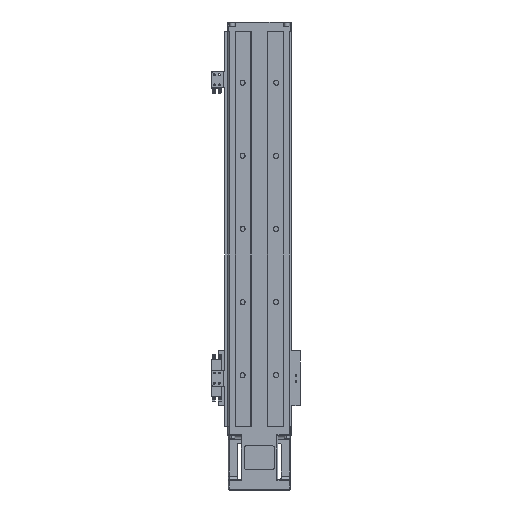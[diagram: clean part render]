
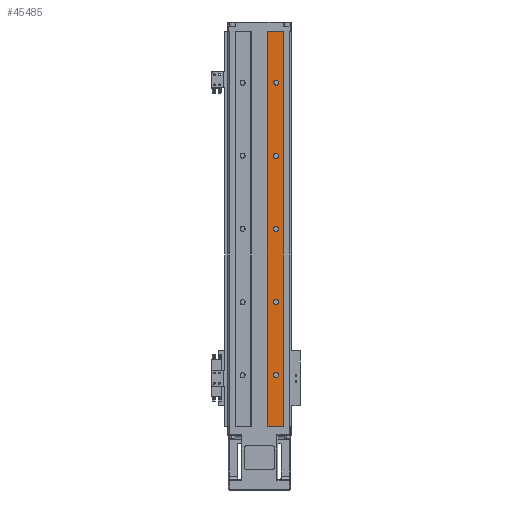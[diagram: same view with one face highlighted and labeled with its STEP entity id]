
A CAD part, front view. The second image highlights one B-rep face of the part: STEP entity #45485.
In plain terms, the highlighted planar face has unit normal (0, -1, 0).
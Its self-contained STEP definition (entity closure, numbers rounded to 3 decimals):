
#803 = DIRECTION ( 'NONE',  ( 0., 1., 0. ) ) ;
#943 = CARTESIAN_POINT ( 'NONE',  ( 23., 0., 66.5 ) ) ;
#1026 = CARTESIAN_POINT ( 'NONE',  ( 23., 0., 70. ) ) ;
#1121 = EDGE_CURVE ( 'NONE', #41941, #14808, #48359, .T. ) ;
#1353 = ORIENTED_EDGE ( 'NONE', *, *, #31557, .T. ) ;
#1497 = FACE_OUTER_BOUND ( 'NONE', #16632, .T. ) ;
#1652 = CARTESIAN_POINT ( 'NONE',  ( 23., 0., 470. ) ) ;
#1779 = VECTOR ( 'NONE', #28400, 1000. ) ;
#2083 = ORIENTED_EDGE ( 'NONE', *, *, #19591, .T. ) ;
#3080 = AXIS2_PLACEMENT_3D ( 'NONE', #14654, #22837, #5708 ) ;
#3585 = EDGE_CURVE ( 'NONE', #31066, #33149, #44888, .T. ) ;
#4056 = AXIS2_PLACEMENT_3D ( 'NONE', #7596, #16919, #16359 ) ;
#4114 = DIRECTION ( 'NONE',  ( 0., 0., -1. ) ) ;
#4436 = ORIENTED_EDGE ( 'NONE', *, *, #51329, .T. ) ;
#5266 = VERTEX_POINT ( 'NONE', #34138 ) ;
#5404 = CARTESIAN_POINT ( 'NONE',  ( 23., 0., 173.5 ) ) ;
#5708 = DIRECTION ( 'NONE',  ( 0., 0., -1. ) ) ;
#6390 = CARTESIAN_POINT ( 'NONE',  ( 11.5, 0., 540. ) ) ;
#7295 = DIRECTION ( 'NONE',  ( 0., 0., -1. ) ) ;
#7305 = LINE ( 'NONE', #21634, #31849 ) ;
#7374 = CARTESIAN_POINT ( 'NONE',  ( 23., 0., 366.5 ) ) ;
#7596 = CARTESIAN_POINT ( 'NONE',  ( 23., 0., 170. ) ) ;
#7943 = AXIS2_PLACEMENT_3D ( 'NONE', #1652, #32089, #36476 ) ;
#8792 = ORIENTED_EDGE ( 'NONE', *, *, #20139, .T. ) ;
#9235 = DIRECTION ( 'NONE',  ( 0., 1., 0. ) ) ;
#9510 = EDGE_CURVE ( 'NONE', #23948, #41164, #30399, .T. ) ;
#9890 = ORIENTED_EDGE ( 'NONE', *, *, #1121, .T. ) ;
#10294 = FACE_BOUND ( 'NONE', #28444, .T. ) ;
#10508 = CIRCLE ( 'NONE', #14370, 3.5 ) ;
#10571 = DIRECTION ( 'NONE',  ( 0., 0., 1. ) ) ;
#10816 = CARTESIAN_POINT ( 'NONE',  ( 32.5, 0., 540. ) ) ;
#11187 = ORIENTED_EDGE ( 'NONE', *, *, #23017, .T. ) ;
#11283 = LINE ( 'NONE', #15236, #1779 ) ;
#12793 = ORIENTED_EDGE ( 'NONE', *, *, #55559, .F. ) ;
#13091 = EDGE_LOOP ( 'NONE', ( #1353, #36796 ) ) ;
#13443 = CARTESIAN_POINT ( 'NONE',  ( 23., 0., 70. ) ) ;
#13782 = CARTESIAN_POINT ( 'NONE',  ( 23., 0., 466.5 ) ) ;
#13946 = DIRECTION ( 'NONE',  ( 0., 1., 0. ) ) ;
#14032 = ORIENTED_EDGE ( 'NONE', *, *, #33046, .T. ) ;
#14370 = AXIS2_PLACEMENT_3D ( 'NONE', #1026, #13946, #32029 ) ;
#14400 = FACE_BOUND ( 'NONE', #55404, .T. ) ;
#14654 = CARTESIAN_POINT ( 'NONE',  ( 23., 0., 470. ) ) ;
#14808 = VERTEX_POINT ( 'NONE', #48486 ) ;
#15236 = CARTESIAN_POINT ( 'NONE',  ( 43., 0., 540. ) ) ;
#16359 = DIRECTION ( 'NONE',  ( 0., 0., -1. ) ) ;
#16481 = CIRCLE ( 'NONE', #44664, 3.5 ) ;
#16632 = EDGE_LOOP ( 'NONE', ( #12793, #29199, #19997, #20557 ) ) ;
#16919 = DIRECTION ( 'NONE',  ( 0., 1., 0. ) ) ;
#17076 = AXIS2_PLACEMENT_3D ( 'NONE', #51834, #51477, #51282 ) ;
#17972 = DIRECTION ( 'NONE',  ( 0., 0., -1. ) ) ;
#18266 = AXIS2_PLACEMENT_3D ( 'NONE', #20322, #55047, #29067 ) ;
#18457 = EDGE_CURVE ( 'NONE', #33212, #29948, #53128, .T. ) ;
#18531 = EDGE_LOOP ( 'NONE', ( #8792, #11187 ) ) ;
#19591 = EDGE_CURVE ( 'NONE', #27552, #37307, #38232, .T. ) ;
#19997 = ORIENTED_EDGE ( 'NONE', *, *, #56350, .T. ) ;
#20139 = EDGE_CURVE ( 'NONE', #35707, #5266, #41553, .T. ) ;
#20302 = DIRECTION ( 'NONE',  ( 0., 1., 0. ) ) ;
#20311 = AXIS2_PLACEMENT_3D ( 'NONE', #13443, #9235, #17972 ) ;
#20322 = CARTESIAN_POINT ( 'NONE',  ( 43., 0., 540. ) ) ;
#20557 = ORIENTED_EDGE ( 'NONE', *, *, #18457, .F. ) ;
#21447 = DIRECTION ( 'NONE',  ( -1., 0., 0. ) ) ;
#21634 = CARTESIAN_POINT ( 'NONE',  ( 43., 0., 0. ) ) ;
#22837 = DIRECTION ( 'NONE',  ( 0., 1., 0. ) ) ;
#23017 = EDGE_CURVE ( 'NONE', #5266, #35707, #50286, .T. ) ;
#23948 = VERTEX_POINT ( 'NONE', #51025 ) ;
#24733 = CARTESIAN_POINT ( 'NONE',  ( 23., 0., 166.5 ) ) ;
#25289 = CARTESIAN_POINT ( 'NONE',  ( 23., 0., 170. ) ) ;
#25418 = LINE ( 'NONE', #46813, #45086 ) ;
#27367 = EDGE_CURVE ( 'NONE', #42742, #35468, #25418, .T. ) ;
#27552 = VERTEX_POINT ( 'NONE', #38481 ) ;
#28400 = DIRECTION ( 'NONE',  ( -1., 0., 0. ) ) ;
#28444 = EDGE_LOOP ( 'NONE', ( #14032, #2083 ) ) ;
#28668 = EDGE_CURVE ( 'NONE', #14808, #41941, #42180, .T. ) ;
#29067 = DIRECTION ( 'NONE',  ( 0., 0., -1. ) ) ;
#29199 = ORIENTED_EDGE ( 'NONE', *, *, #27367, .F. ) ;
#29363 = FACE_BOUND ( 'NONE', #13091, .T. ) ;
#29440 = ORIENTED_EDGE ( 'NONE', *, *, #28668, .T. ) ;
#29948 = VERTEX_POINT ( 'NONE', #50795 ) ;
#30166 = CARTESIAN_POINT ( 'NONE',  ( 23., 0., 370. ) ) ;
#30399 = CIRCLE ( 'NONE', #20311, 3.5 ) ;
#30403 = AXIS2_PLACEMENT_3D ( 'NONE', #25289, #38211, #47257 ) ;
#31066 = VERTEX_POINT ( 'NONE', #24733 ) ;
#31557 = EDGE_CURVE ( 'NONE', #41164, #23948, #10508, .T. ) ;
#31849 = VECTOR ( 'NONE', #21447, 1000. ) ;
#32029 = DIRECTION ( 'NONE',  ( 0., 0., -1. ) ) ;
#32089 = DIRECTION ( 'NONE',  ( 0., 1., 0. ) ) ;
#33046 = EDGE_CURVE ( 'NONE', #37307, #27552, #16481, .T. ) ;
#33149 = VERTEX_POINT ( 'NONE', #5404 ) ;
#33212 = VERTEX_POINT ( 'NONE', #40604 ) ;
#33450 = CARTESIAN_POINT ( 'NONE',  ( 23., 0., 270. ) ) ;
#34138 = CARTESIAN_POINT ( 'NONE',  ( 23., 0., 473.5 ) ) ;
#34826 = FACE_BOUND ( 'NONE', #45242, .T. ) ;
#35468 = VERTEX_POINT ( 'NONE', #41099 ) ;
#35707 = VERTEX_POINT ( 'NONE', #13782 ) ;
#36261 = CARTESIAN_POINT ( 'NONE',  ( 23., 0., 266.5 ) ) ;
#36476 = DIRECTION ( 'NONE',  ( 0., 0., -1. ) ) ;
#36796 = ORIENTED_EDGE ( 'NONE', *, *, #9510, .T. ) ;
#37307 = VERTEX_POINT ( 'NONE', #7374 ) ;
#38211 = DIRECTION ( 'NONE',  ( 0., 1., 0. ) ) ;
#38232 = CIRCLE ( 'NONE', #39707, 3.5 ) ;
#38481 = CARTESIAN_POINT ( 'NONE',  ( 23., 0., 373.5 ) ) ;
#39075 = ORIENTED_EDGE ( 'NONE', *, *, #3585, .T. ) ;
#39707 = AXIS2_PLACEMENT_3D ( 'NONE', #52807, #803, #44301 ) ;
#40604 = CARTESIAN_POINT ( 'NONE',  ( 11.5, 0., 0. ) ) ;
#41099 = CARTESIAN_POINT ( 'NONE',  ( 32.5, 0., 0. ) ) ;
#41164 = VERTEX_POINT ( 'NONE', #943 ) ;
#41553 = CIRCLE ( 'NONE', #7943, 3.5 ) ;
#41655 = VECTOR ( 'NONE', #10571, 1000. ) ;
#41781 = DIRECTION ( 'NONE',  ( 0., 0., -1. ) ) ;
#41941 = VERTEX_POINT ( 'NONE', #36261 ) ;
#42180 = CIRCLE ( 'NONE', #17076, 3.5 ) ;
#42742 = VERTEX_POINT ( 'NONE', #10816 ) ;
#43257 = DIRECTION ( 'NONE',  ( 0., 1., 0. ) ) ;
#44301 = DIRECTION ( 'NONE',  ( 0., 0., -1. ) ) ;
#44664 = AXIS2_PLACEMENT_3D ( 'NONE', #30166, #43257, #4114 ) ;
#44888 = CIRCLE ( 'NONE', #4056, 3.5 ) ;
#45086 = VECTOR ( 'NONE', #7295, 1000. ) ;
#45242 = EDGE_LOOP ( 'NONE', ( #9890, #29440 ) ) ;
#45485 = ADVANCED_FACE ( 'NONE', ( #1497, #46348, #10294, #34826, #14400, #29363 ), #54858, .T. ) ;
#46348 = FACE_BOUND ( 'NONE', #18531, .T. ) ;
#46813 = CARTESIAN_POINT ( 'NONE',  ( 32.5, 0., 540. ) ) ;
#47257 = DIRECTION ( 'NONE',  ( 0., 0., -1. ) ) ;
#47990 = AXIS2_PLACEMENT_3D ( 'NONE', #33450, #20302, #41781 ) ;
#48359 = CIRCLE ( 'NONE', #47990, 3.5 ) ;
#48486 = CARTESIAN_POINT ( 'NONE',  ( 23., 0., 273.5 ) ) ;
#50286 = CIRCLE ( 'NONE', #3080, 3.5 ) ;
#50795 = CARTESIAN_POINT ( 'NONE',  ( 11.5, 0., 540. ) ) ;
#51025 = CARTESIAN_POINT ( 'NONE',  ( 23., 0., 73.5 ) ) ;
#51282 = DIRECTION ( 'NONE',  ( 0., 0., -1. ) ) ;
#51329 = EDGE_CURVE ( 'NONE', #33149, #31066, #52109, .T. ) ;
#51477 = DIRECTION ( 'NONE',  ( 0., 1., 0. ) ) ;
#51834 = CARTESIAN_POINT ( 'NONE',  ( 23., 0., 270. ) ) ;
#52109 = CIRCLE ( 'NONE', #30403, 3.5 ) ;
#52807 = CARTESIAN_POINT ( 'NONE',  ( 23., 0., 370. ) ) ;
#53128 = LINE ( 'NONE', #6390, #41655 ) ;
#54858 = PLANE ( 'NONE',  #18266 ) ;
#55047 = DIRECTION ( 'NONE',  ( 0., -1., 0. ) ) ;
#55404 = EDGE_LOOP ( 'NONE', ( #39075, #4436 ) ) ;
#55559 = EDGE_CURVE ( 'NONE', #35468, #33212, #7305, .T. ) ;
#56350 = EDGE_CURVE ( 'NONE', #42742, #29948, #11283, .T. ) ;
